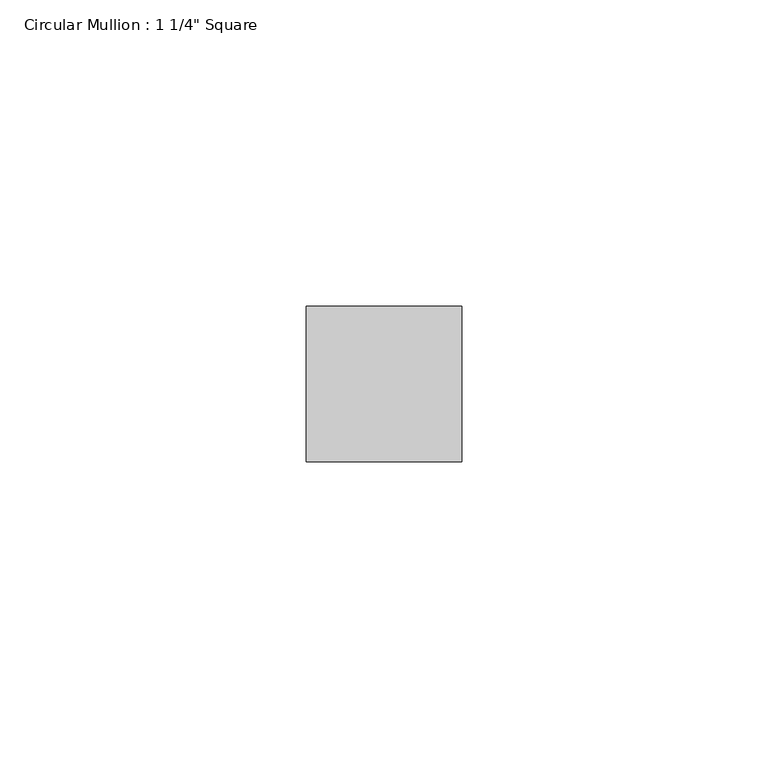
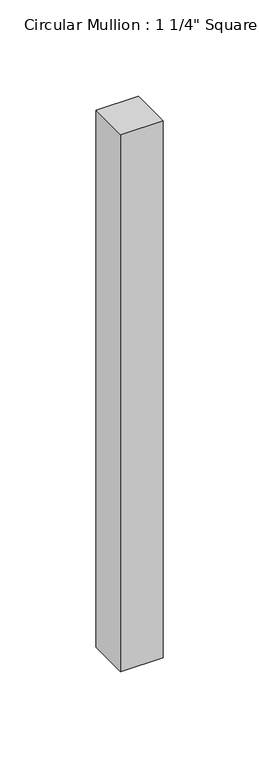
"""IFC4 building model written with IfcOpenShell, lengths in millimetres: member geometry."""

from ifc_helpers import new_model, si_unit, frame, origin, place, context, project, spatial, polyline, outline, extrude, source, transform, mapped, element, save


def member_f56b15f9(model_context):
    return source(origin(), model_context, "Body", "SweptSolid", [
        extrude(outline(polyline([(12.7, 12.7), (12.7, -12.7), (-12.7, -12.7), (-12.7, 12.7), (12.7, 12.7)])), frame((0.0, 0.0, -340.5123997), z_axis=(0.0, 0.0, 1.0), x_axis=(1.0, 0.0, 0.0)), (0.0, 0.0, 1.0), 340.5123997),
    ])


if __name__ == "__main__":
    model = new_model("IFC4")
    model_context = context("Model", 3, world=origin())
    ifc_project = project(units=[si_unit("LENGTHUNIT", "METRE", prefix="MILLI")], contexts=[model_context])
    site = spatial("IfcSite", under=ifc_project)
    building = spatial("IfcBuilding", under=site)
    placement = place(None, origin())
    member_shape = member_f56b15f9(model_context)
    element("IfcMember", 1, ObjectType="Circular Mullion : 1 1/4\" Square", at=placement, inside=building, context=model_context, shape_type="MappedRepresentation", body=[
        mapped(member_shape, transform((0.0, 0.0, 0.0), x_axis=(1.0, 0.0, 0.0), y_axis=(0.0, 1.0, 0.0), z_axis=(0.0, 0.0, 1.0))),
    ])
    save(model, "model.ifc")
